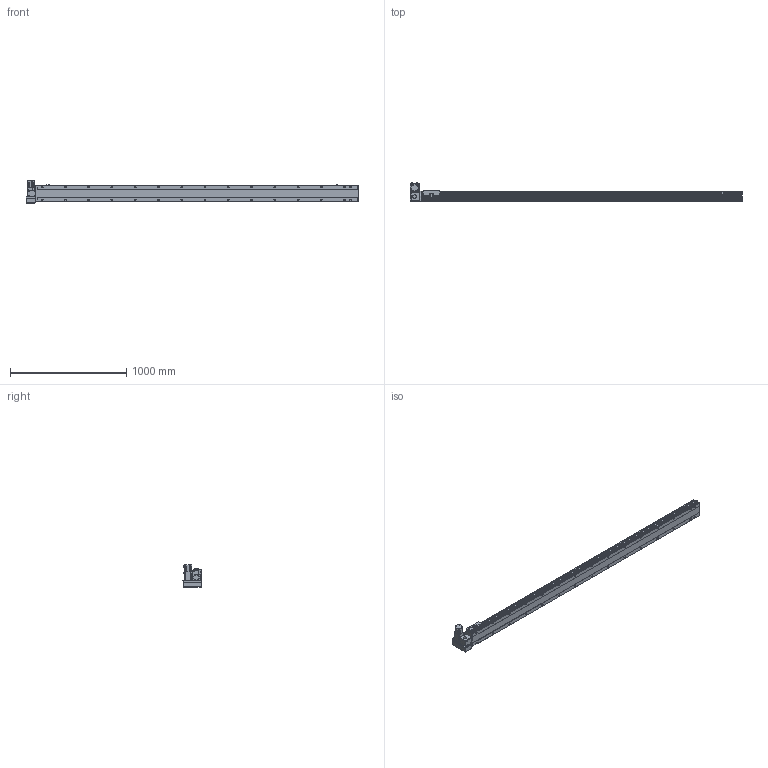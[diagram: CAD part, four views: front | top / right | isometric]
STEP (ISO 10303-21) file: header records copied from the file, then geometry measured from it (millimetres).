
FILE_DESCRIPTION( ( 'STEP AP214' ), '1' );
FILE_NAME( 'x:/temp/worker_6/temp/exporttempdir_5396_155_McS1D/format_0/PBS140S-P40-S2500-LU-T40-C1-N(0).stp', '2022-06-09T00:36:35', ( 'License CC BY-ND 4.0' ), ( 'CADENAS' ), ' ', 'PARTsolutions', ' ' );
FILE_SCHEMA( ( 'AUTOMOTIVE_DESIGN { 1 0 10303 214 1 1 1 1 }' ) );
Length unit declared in the file: millimetre
Products named in the file (7): PBS140S-P40-S2500-LU-T40-C1-N(0); _PBS140S-S2500()_body; _PBS140ST-LU_motors; _T40-p1; _PBS140S_sliser; _PBS140S_plant; _PBS140S_sensor
Assembly tree (8 placements, depth 2):
  PBS140S-P40-S2500-LU-T40-C1-N(0)
    _PBS140S-S2500()_body
    _PBS140ST-LU_motors
    _T40-p1
    _PBS140S_sliser
    _PBS140S_plant
    _PBS140S_sensor  x3
Bounding box: 2854 x 162.5 x 189.7 mm (x, y, z)
Volume: 13868373 mm3; surface area: 2337522.9 mm2
Topology: 8 solids, 8 shells, 1211 faces, 3191 edges, 2087 vertices
Faces by surface type: plane 744, cylinder 401, cone 56, sphere 8, torus 2
Full cylindrical faces by diameter (mm): 3.242 x4, 4 x2, 4.134 x4, 4.4 x8, 4.5 x2, 4.8 x4, 4.917 x38, 5.5 x7, 6 x2, 7 x32, 7.5 x8, 8 x12, 8.5 x4, 10.5 x30, 14 x1, 30 x2, 50 x2
Entity records: 44830 total; most frequent: CARTESIAN_POINT 7582, DIRECTION 5838, ORIENTED_EDGE 5482, EDGE_CURVE 2741, AXIS2_PLACEMENT_3D 2069, VERTEX_POINT 1921, LINE 1700, VECTOR 1700
